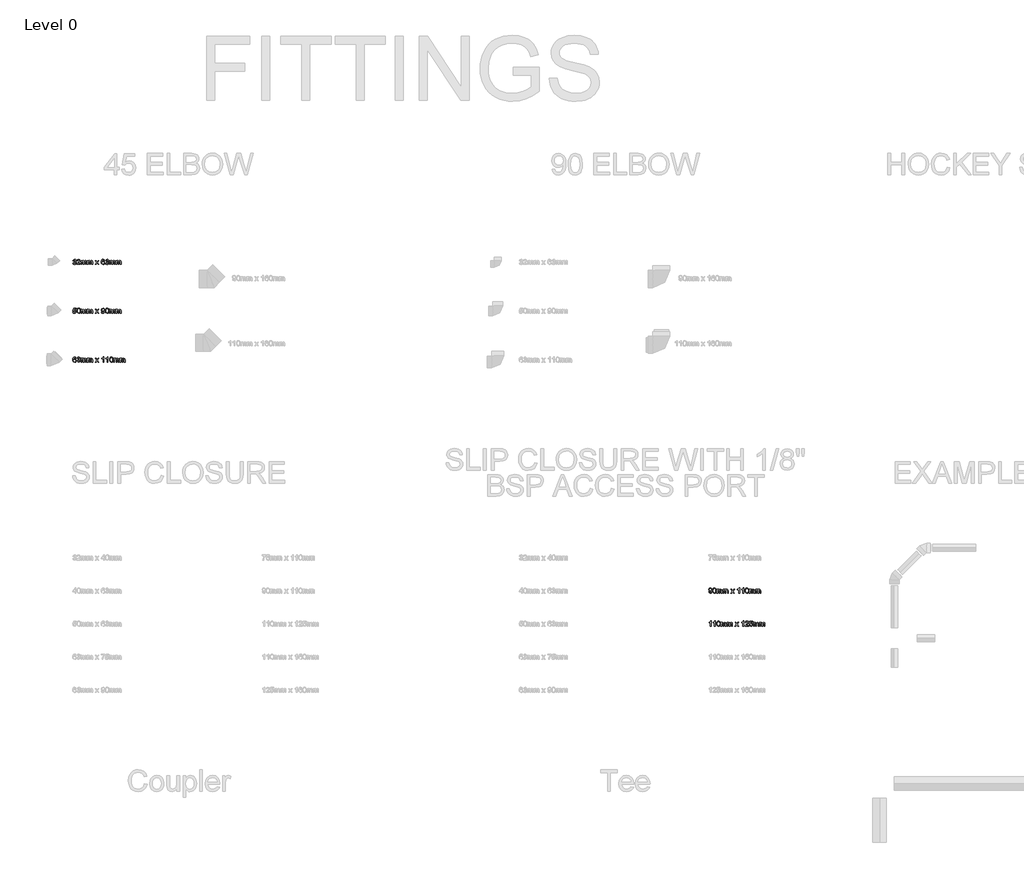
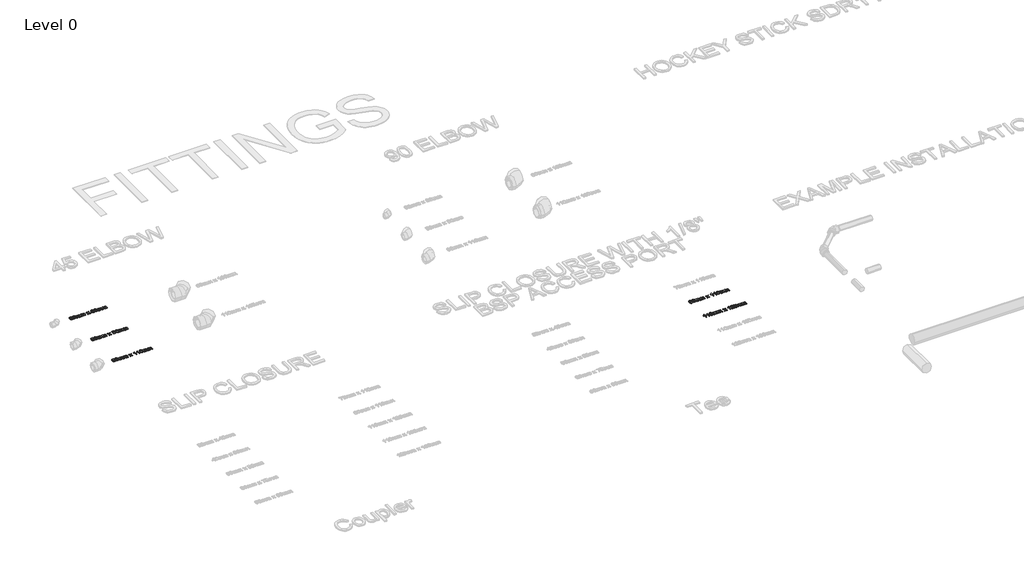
# One storey, part 15 of 21: 5 proxies.
"""IFC4 building model written with IfcOpenShell, lengths in millimetres."""

import ifcopenshell
import ifcopenshell.guid

model = None  # the IFC model being written
_history = None  # IfcOwnerHistory: only IFC2X3 demands one
_inside = {}  # id of a spatial element -> (the spatial element, [elements in it])
_under = {}  # id of a project, library or spatial element -> (it, [spatial elements below it])
_declared = {}  # id of a project -> (the project, [libraries it declares])
_typed = {}  # id of a type object -> (the type object, [elements of that type])
_made_of = {}  # id of a material, layer set ... -> (it, [elements and type objects made of it])


def new_model(schema):
    """Start an empty IFC model of exactly this schema.

    Asked for "IFC4X3", IfcOpenShell would pick the latest addendum, in which some entities
    have other attributes; the version numbers below select the first issue.
    IFC2X3 requires an IfcOwnerHistory on every rooted entity: one is made here for all.
    """
    global model, _history
    if schema == "IFC4X3":
        model = ifcopenshell.file(schema_version=(4, 3, 0, 0))
    else:
        model = ifcopenshell.file(schema=schema)
    _inside.clear()
    _under.clear()
    _declared.clear()
    _typed.clear()
    _made_of.clear()
    _history = None
    if model.schema == "IFC2X3":
        org = make("IfcOrganization", Name="unknown")
        user = make(
            "IfcPersonAndOrganization",
            ThePerson=make("IfcPerson", FamilyName="unknown"),
            TheOrganization=org,
        )
        app = make(
            "IfcApplication",
            ApplicationDeveloper=org,
            Version="unknown",
            ApplicationFullName="unknown",
            ApplicationIdentifier="unknown",
        )
        _history = make(
            "IfcOwnerHistory",
            OwningUser=user,
            OwningApplication=app,
            ChangeAction="ADDED",
            CreationDate=0,
        )
    return model


def make(cls, **values):
    """One entity of the class cls with the attributes given. An attribute that is None is left unset."""
    return model.create_entity(
        cls, **{name: value for name, value in values.items() if value is not None}
    )


def rooted(cls, **values):
    """An entity with a GlobalId (a new one), such as an element, a storey or a relation."""
    return make(cls, GlobalId=ifcopenshell.guid.new(), OwnerHistory=_history, **values)


def si_unit(unit_type, name, prefix=None):
    """IfcSIUnit, for example si_unit("LENGTHUNIT", "METRE", prefix="MILLI")."""
    return make("IfcSIUnit", UnitType=unit_type, Prefix=prefix, Name=name)


def assignment(units):
    """IfcUnitAssignment: the units of a project."""
    return None if units is None else make("IfcUnitAssignment", Units=units)


def point(xyz):
    """IfcCartesianPoint."""
    return None if xyz is None else make("IfcCartesianPoint", Coordinates=xyz)


def direction(xyz):
    """IfcDirection."""
    return None if xyz is None else make("IfcDirection", DirectionRatios=xyz)


def frame(location, z_axis=None, x_axis=None):
    """IfcAxis2Placement3D, a coordinate frame: its origin and axes. An axis left out is left unset."""
    return make(
        "IfcAxis2Placement3D",
        Location=point(location),
        Axis=direction(z_axis),
        RefDirection=direction(x_axis),
    )


def origin():
    """The frame at (0, 0, 0) with its axes left unset."""
    return frame((0.0, 0.0, 0.0))


def origin_with_axes():
    """The frame at (0, 0, 0) with the z axis (0, 0, 1) and the x axis (1, 0, 0) written out."""
    return frame((0.0, 0.0, 0.0), z_axis=(0.0, 0.0, 1.0), x_axis=(1.0, 0.0, 0.0))


def place(relative_to, where):
    """IfcLocalPlacement: puts the frame where relative to a parent placement (None: the world)."""
    return make(
        "IfcLocalPlacement", PlacementRelTo=relative_to, RelativePlacement=where
    )


def context(
    kind, dimensions, precision=None, world=None, true_north=None, identifier=None
):
    """IfcGeometricRepresentationContext, for example the 3D "Model" context."""
    return make(
        "IfcGeometricRepresentationContext",
        ContextIdentifier=identifier,
        ContextType=kind,
        CoordinateSpaceDimension=dimensions,
        Precision=precision,
        WorldCoordinateSystem=world,
        TrueNorth=true_north,
    )


def project(units=None, contexts=None):
    """IfcProject with its units and contexts."""
    return rooted(
        "IfcProject",
        Name="project",
        RepresentationContexts=contexts,
        UnitsInContext=assignment(units),
    )


def spatial(cls, under=None, at=None, **own):
    """A site, building, storey or space (cls), placed at a placement, below another one or the project."""
    s = rooted(cls, ObjectPlacement=at, **own)
    if under is not None:
        _under.setdefault(under.id(), (under, []))[1].append(s)
    return s


def polyline(points):
    """IfcPolyline through the points."""
    return make("IfcPolyline", Points=[point(p) for p in points])


def outline(outer, holes=None, kind="AREA"):
    """IfcArbitraryClosedProfileDef: a profile drawn as a closed curve; with holes, ...WithVoids."""
    if holes is None:
        return make("IfcArbitraryClosedProfileDef", ProfileType=kind, OuterCurve=outer)
    return make(
        "IfcArbitraryProfileDefWithVoids",
        ProfileType=kind,
        OuterCurve=outer,
        InnerCurves=holes,
    )


def extrude(swept, where, along, depth):
    """IfcExtrudedAreaSolid: the profile swept, set in the frame where, extruded along a direction by depth."""
    return make(
        "IfcExtrudedAreaSolid",
        SweptArea=swept,
        Position=where,
        ExtrudedDirection=direction(along),
        Depth=depth,
    )


def shape(context_of_items, identifier, shape_type, items):
    """IfcShapeRepresentation: the items that make up one representation, for example the "Body"."""
    return make(
        "IfcShapeRepresentation",
        ContextOfItems=context_of_items,
        RepresentationIdentifier=identifier,
        RepresentationType=shape_type,
        Items=items,
    )


def made_of(thing, what):
    """Note that an element or type object is made of a material, layer set ...; save() writes the relation."""
    if what is not None:
        _made_of.setdefault(what.id(), (what, []))[1].append(thing)
    return thing


def element(
    cls,
    number,
    at=None,
    inside=None,
    cuts=None,
    type_object=None,
    material=None,
    context=None,
    identifier="Body",
    shape_type=None,
    held_by="IfcProductDefinitionShape",
    body=None,
    shapes=None,
    **own,
):
    """One element of the class cls, such as IfcWall. Its Tag is "e" and its number.

    at: its placement. inside: the storey or other place that contains it. cuts: it is an
    opening in that element (IfcRelVoidsElement). A single representation is given by context,
    identifier, shape_type and body (its items); several are given by shapes. held_by: the class
    of the entity that holds the representations. save() writes the other relations.
    """
    e = rooted(cls, Tag="e%d" % number, ObjectPlacement=at, **own)
    if body is not None:
        shapes = [shape(context, identifier, shape_type, body)]
    if shapes is not None:
        e.Representation = make(held_by, Representations=shapes)
    if inside is not None:
        _inside.setdefault(inside.id(), (inside, []))[1].append(e)
    if cuts is not None:
        rooted(
            "IfcRelVoidsElement", RelatingBuildingElement=cuts, RelatedOpeningElement=e
        )
    if type_object is not None:
        _typed.setdefault(type_object.id(), (type_object, []))[1].append(e)
    return made_of(e, material)


def aggregate(whole, parts):
    """IfcRelAggregates: a whole, such as a stair, and the parts it consists of."""
    return rooted("IfcRelAggregates", RelatingObject=whole, RelatedObjects=parts)


def save(model, path):
    """Write the relations noted so far, then the file.

    IfcRelAggregates (storeys below a building ...), IfcRelContainedInSpatialStructure (elements
    in a storey), IfcRelDefinesByType, IfcRelAssociatesMaterial and IfcRelDeclares: one each for
    every whole, place, type object, material and project.
    """
    for whole, parts in _under.values():
        aggregate(whole, parts)
    for where, things in _inside.values():
        rooted(
            "IfcRelContainedInSpatialStructure",
            RelatedElements=things,
            RelatingStructure=where,
        )
    for kind, things in _typed.values():
        rooted("IfcRelDefinesByType", RelatedObjects=things, RelatingType=kind)
    for what, things in _made_of.values():
        rooted("IfcRelAssociatesMaterial", RelatedObjects=things, RelatingMaterial=what)
    for by, libraries in _declared.values():
        rooted("IfcRelDeclares", RelatingContext=by, RelatedDefinitions=libraries)
    model.write(path)


model = new_model("IFC4")

# Units and contexts
model_context = context("Model", 3, world=origin())
ifc_project = project(units=[si_unit("LENGTHUNIT", "METRE", prefix="MILLI")], contexts=[model_context])

# Site, building, storey
site = spatial("IfcSite", under=ifc_project)
building = spatial("IfcBuilding", under=site)
storey = spatial("IfcBuildingStorey", under=building, Name="Level 0", Elevation=0.0)

# Proxies
placement = place(None, origin())
element("IfcBuildingElementProxy", 1, Name="50mm", ObjectType="50mm", at=placement, inside=storey, context=model_context, shape_type="SweptSolid", body=[
    extrude(outline(polyline([(-7438.2285688, -2383.2605095), (-7431.9500494, -2382.4756946), (-7428.4858273, -2389.0853078), (-7422.0049728, -2391.1086588), (-7414.3775528, -2388.3250183), (-7411.5448614, -2381.4333623), (-7414.3530273, -2374.9402451), (-7421.4899381, -2372.3712025), (-7425.8922593, -2373.0579155), (-7425.1932835, -2366.7793962), (-7417.0630914, -2365.0503508), (-7413.8993062, -2359.5075954), (-7416.1924373, -2354.5963707), (-7422.1030747, -2352.6527275), (-7428.0872885, -2354.6147648), (-7431.1652345, -2360.5008768), (-7437.4437539, -2359.7160618), (-7432.3056687, -2349.8690871), (-7422.3238039, -2346.3742082), (-7414.7515662, -2348.0971222), (-7409.4540654, -2352.8060117), (-7407.6207868, -2359.1397134), (-7409.3620949, -2364.9277234), (-7414.5124429, -2369.08479), (-7407.6698378, -2373.3767466), (-7405.2663421, -2381.5437269), (-7410.0733335, -2392.7763905), (-7422.225702, -2397.3871782), (-7433.2376364, -2393.4508408), (-7438.2285688, -2383.2605095)])), origin_with_axes(), (0.0, 0.0, 1.0), 5.0),
    extrude(outline(polyline([(-7367.5952258, -2390.3238438), (-7367.5952258, -2396.6023632), (-7400.5574525, -2396.6023632), (-7399.8830022, -2392.2736184), (-7396.0692922, -2385.6088229), (-7388.2088802, -2378.3308908), (-7377.3686241, -2367.8707794), (-7374.6585601, -2360.7583942), (-7377.2153399, -2355.0010409), (-7383.8923981, -2352.6527275), (-7390.8514992, -2354.9458586), (-7393.4941182, -2361.2856917), (-7399.7726376, -2360.5008768), (-7394.9595148, -2349.9917144), (-7383.7575081, -2346.3742082), (-7372.5187131, -2350.3963846), (-7368.3800407, -2360.3782494), (-7369.4959494, -2366.3318064), (-7373.2054262, -2372.4876984), (-7382.200141, -2381.0900058), (-7389.4228908, -2387.1294019), (-7392.2555822, -2390.3238438), (-7367.5952258, -2390.3238438)])), origin_with_axes(), (0.0, 0.0, 1.0), 5.0),
    extrude(outline(polyline([(-7359.7470765, -2396.6023632), (-7359.7470765, -2359.7160618), (-7353.4685571, -2359.7160618), (-7353.4685571, -2365.7861148), (-7349.1520751, -2360.8135765), (-7343.0084457, -2358.9312469), (-7336.7176636, -2360.8503647), (-7333.2595729, -2366.2275732), (-7328.360611, -2360.7553285), (-7322.1740621, -2358.9312469), (-7313.9641622, -2361.9662734), (-7311.0885513, -2371.3166074), (-7311.0885513, -2396.6023632), (-7317.3670707, -2396.6023632), (-7317.3670707, -2374.0144087), (-7317.9495505, -2368.7720903), (-7320.0587406, -2366.190785), (-7323.6455901, -2365.2097663), (-7329.8198762, -2367.7236266), (-7332.2785542, -2375.7802423), (-7332.2785542, -2396.6023632), (-7338.5570736, -2396.6023632), (-7338.5570736, -2373.3154329), (-7340.0102075, -2367.2331173), (-7344.7742793, -2365.2097663), (-7349.4218552, -2366.558667), (-7352.512064, -2370.507267), (-7353.4685571, -2377.999797), (-7353.4685571, -2396.6023632), (-7359.7470765, -2396.6023632)])), origin_with_axes(), (0.0, 0.0, 1.0), 5.0),
    extrude(outline(polyline([(-7301.6707722, -2396.6023632), (-7301.6707722, -2359.7160618), (-7295.3922528, -2359.7160618), (-7295.3922528, -2365.7861148), (-7291.0757708, -2360.8135765), (-7284.9321414, -2358.9312469), (-7278.6413593, -2360.8503647), (-7275.1832686, -2366.2275732), (-7270.2843067, -2360.7553285), (-7264.0977578, -2358.9312469), (-7255.8878579, -2361.9662734), (-7253.012247, -2371.3166074), (-7253.012247, -2396.6023632), (-7259.2907664, -2396.6023632), (-7259.2907664, -2374.0144087), (-7259.8732462, -2368.7720903), (-7261.9824363, -2366.190785), (-7265.5692858, -2365.2097663), (-7271.7435719, -2367.7236266), (-7274.2022499, -2375.7802423), (-7274.2022499, -2396.6023632), (-7280.4807693, -2396.6023632), (-7280.4807693, -2373.3154329), (-7281.9339032, -2367.2331173), (-7286.697975, -2365.2097663), (-7291.3455509, -2366.558667), (-7294.4357597, -2370.507267), (-7295.3922528, -2377.999797), (-7295.3922528, -2396.6023632), (-7301.6707722, -2396.6023632)])), origin_with_axes(), (0.0, 0.0, 1.0), 5.0),
    extrude(outline(polyline([(-7227.8981695, -2396.6023632), (-7214.4827394, -2378.0611107), (-7227.1133545, -2359.7160618), (-7219.5595109, -2359.7160618), (-7213.4649325, -2368.5452297), (-7210.6199784, -2372.714559), (-7208.155169, -2369.3055192), (-7201.2144621, -2359.7160618), (-7193.6606184, -2359.7160618), (-7206.9288957, -2378.0611107), (-7194.1511278, -2396.6023632), (-7201.7049714, -2396.6023632), (-7209.3937051, -2385.4555388), (-7210.8039194, -2383.4199251), (-7220.3443258, -2396.6023632), (-7227.8981695, -2396.6023632)])), origin_with_axes(), (0.0, 0.0, 1.0), 5.0),
    extrude(outline(polyline([(-7138.4292682, -2359.7160618), (-7144.7077876, -2360.5008768), (-7147.0867578, -2355.2646897), (-7153.37754, -2352.6527275), (-7159.0429227, -2354.1733065), (-7163.3287479, -2359.8816087), (-7165.1129756, -2371.0713528), (-7159.5763516, -2366.0620263), (-7152.7153524, -2364.4249514), (-7142.0467745, -2368.900849), (-7137.6444533, -2380.4646064), (-7139.7168552, -2389.1282274), (-7145.4190261, -2395.2595939), (-7153.6473201, -2397.3871782), (-7166.4434822, -2391.7463209), (-7170.1544918, -2384.2783164), (-7171.391495, -2373.1560174), (-7170.0180689, -2360.6510953), (-7165.8977905, -2352.1009045), (-7160.2722617, -2347.8058823), (-7152.9851325, -2346.3742082), (-7143.0645814, -2349.918138), (-7138.4292682, -2359.7160618)]), holes=[polyline([(-7165.1129756, -2380.3665045), (-7163.6598417, -2385.8050267), (-7159.7970808, -2389.7536268), (-7154.1378294, -2391.1086588), (-7146.73727, -2388.3004929), (-7143.9229727, -2380.6730728), (-7146.7004818, -2373.3706152), (-7154.3953468, -2370.7034708), (-7161.99211, -2373.3706152), (-7165.1129756, -2380.3665045)])]), origin_with_axes(), (0.0, 0.0, 1.0), 5.0),
    extrude(outline(polyline([(-7132.1507488, -2383.2605095), (-7125.8722295, -2382.4756946), (-7122.4080073, -2389.0853078), (-7115.9271529, -2391.1086588), (-7108.2997328, -2388.3250183), (-7105.4670415, -2381.4333623), (-7108.2752074, -2374.9402451), (-7115.4121181, -2372.3712025), (-7119.8144393, -2373.0579155), (-7119.1154635, -2366.7793962), (-7110.9852714, -2365.0503508), (-7107.8214862, -2359.5075954), (-7110.1146173, -2354.5963707), (-7116.0252547, -2352.6527275), (-7122.0094685, -2354.6147648), (-7125.0874145, -2360.5008768), (-7131.3659339, -2359.7160618), (-7126.2278487, -2349.8690871), (-7116.2459839, -2346.3742082), (-7108.6737462, -2348.0971222), (-7103.3762455, -2352.8060117), (-7101.5429668, -2359.1397134), (-7103.284275, -2364.9277234), (-7108.4346229, -2369.08479), (-7101.5920178, -2373.3767466), (-7099.1885221, -2381.5437269), (-7103.9955135, -2392.7763905), (-7116.1478821, -2397.3871782), (-7127.1598164, -2393.4508408), (-7132.1507488, -2383.2605095)])), origin_with_axes(), (0.0, 0.0, 1.0), 5.0),
    extrude(outline(polyline([(-7092.1251878, -2396.6023632), (-7092.1251878, -2359.7160618), (-7085.8466684, -2359.7160618), (-7085.8466684, -2365.7861148), (-7081.5301863, -2360.8135765), (-7075.386557, -2358.9312469), (-7069.0957749, -2360.8503647), (-7065.6376841, -2366.2275732), (-7060.7387222, -2360.7553285), (-7054.5521733, -2358.9312469), (-7046.3422735, -2361.9662734), (-7043.4666625, -2371.3166074), (-7043.4666625, -2396.6023632), (-7049.7451819, -2396.6023632), (-7049.7451819, -2374.0144087), (-7050.3276618, -2368.7720903), (-7052.4368519, -2366.190785), (-7056.0237013, -2365.2097663), (-7062.1979875, -2367.7236266), (-7064.6566655, -2375.7802423), (-7064.6566655, -2396.6023632), (-7070.9351848, -2396.6023632), (-7070.9351848, -2373.3154329), (-7072.3883187, -2367.2331173), (-7077.1523906, -2365.2097663), (-7081.7999664, -2366.558667), (-7084.8901752, -2370.507267), (-7085.8466684, -2377.999797), (-7085.8466684, -2396.6023632), (-7092.1251878, -2396.6023632)])), origin_with_axes(), (0.0, 0.0, 1.0), 5.0),
    extrude(outline(polyline([(-7034.0488835, -2396.6023632), (-7034.0488835, -2359.7160618), (-7027.7703641, -2359.7160618), (-7027.7703641, -2365.7861148), (-7023.453882, -2360.8135765), (-7017.3102527, -2358.9312469), (-7011.0194706, -2360.8503647), (-7007.5613798, -2366.2275732), (-7002.6624179, -2360.7553285), (-6996.475869, -2358.9312469), (-6988.2659692, -2361.9662734), (-6985.3903582, -2371.3166074), (-6985.3903582, -2396.6023632), (-6991.6688776, -2396.6023632), (-6991.6688776, -2374.0144087), (-6992.2513574, -2368.7720903), (-6994.3605476, -2366.190785), (-6997.947397, -2365.2097663), (-7004.1216832, -2367.7236266), (-7006.5803612, -2375.7802423), (-7006.5803612, -2396.6023632), (-7012.8588805, -2396.6023632), (-7012.8588805, -2373.3154329), (-7014.3120144, -2367.2331173), (-7019.0760863, -2365.2097663), (-7023.7236621, -2366.558667), (-7026.8138709, -2370.507267), (-7027.7703641, -2377.999797), (-7027.7703641, -2396.6023632), (-7034.0488835, -2396.6023632)])), origin_with_axes(), (0.0, 0.0, 1.0), 5.0),
])
element("IfcBuildingElementProxy", 2, Name="50mm", ObjectType="50mm", at=placement, inside=storey, context=model_context, shape_type="SweptSolid", body=[
    extrude(outline(polyline([(-7438.2285688, -2843.2605095), (-7431.9500494, -2842.4756946), (-7428.7862643, -2848.9442864), (-7422.225702, -2851.1086588), (-7414.3530273, -2848.0981578), (-7411.5448614, -2840.1089871), (-7414.1752177, -2832.6532453), (-7422.1276002, -2829.9186558), (-7427.6396987, -2831.0100391), (-7431.1652345, -2833.8427305), (-7437.4437539, -2833.0579155), (-7431.9500494, -2807.1590231), (-7407.6207868, -2807.1590231), (-7407.6207868, -2813.4375425), (-7426.8732779, -2813.4375425), (-7429.5588165, -2827.2699055), (-7420.3740293, -2823.6401365), (-7409.6380064, -2828.1405595), (-7405.2663421, -2839.7165797), (-7409.2026794, -2851.3661762), (-7414.8557994, -2855.8819277), (-7422.2502275, -2857.3871782), (-7433.3296069, -2853.5182858), (-7438.2285688, -2843.2605095)])), origin_with_axes(), (0.0, 0.0, 1.0), 5.0),
    extrude(outline(polyline([(-7399.7726376, -2831.8929559), (-7397.9270963, -2817.4413248), (-7392.4456545, -2809.1087977), (-7383.2915242, -2806.3742082), (-7375.9584098, -2807.9928889), (-7370.893901, -2812.6588589), (-7367.950845, -2820.0900752), (-7366.8104108, -2831.8929559), (-7368.6375581, -2846.2832733), (-7374.1006057, -2854.6341946), (-7383.2915242, -2857.3871782), (-7394.7694425, -2852.6047122), (-7398.5218388, -2844.1097038), (-7399.7726376, -2831.8929559)]), holes=[polyline([(-7393.4941182, -2831.8806932), (-7390.5510623, -2847.4727584), (-7383.2915242, -2851.1086588), (-7376.0319862, -2847.4604957), (-7373.0889302, -2831.8806932), (-7375.9338843, -2816.4664376), (-7383.3651006, -2812.6527275), (-7390.4529604, -2816.0127164), (-7393.4941182, -2831.8806932)])]), origin_with_axes(), (0.0, 0.0, 1.0), 5.0),
    extrude(outline(polyline([(-7359.7470765, -2856.6023632), (-7359.7470765, -2819.7160618), (-7353.4685571, -2819.7160618), (-7353.4685571, -2825.7861148), (-7349.1520751, -2820.8135765), (-7343.0084457, -2818.9312469), (-7336.7176636, -2820.8503647), (-7333.2595729, -2826.2275732), (-7328.360611, -2820.7553285), (-7322.1740621, -2818.9312469), (-7313.9641622, -2821.9662734), (-7311.0885513, -2831.3166074), (-7311.0885513, -2856.6023632), (-7317.3670707, -2856.6023632), (-7317.3670707, -2834.0144087), (-7317.9495505, -2828.7720903), (-7320.0587406, -2826.190785), (-7323.6455901, -2825.2097663), (-7329.8198762, -2827.7236266), (-7332.2785542, -2835.7802423), (-7332.2785542, -2856.6023632), (-7338.5570736, -2856.6023632), (-7338.5570736, -2833.3154329), (-7340.0102075, -2827.2331173), (-7344.7742793, -2825.2097663), (-7349.4218552, -2826.558667), (-7352.512064, -2830.507267), (-7353.4685571, -2837.999797), (-7353.4685571, -2856.6023632), (-7359.7470765, -2856.6023632)])), origin_with_axes(), (0.0, 0.0, 1.0), 5.0),
    extrude(outline(polyline([(-7301.6707722, -2856.6023632), (-7301.6707722, -2819.7160618), (-7295.3922528, -2819.7160618), (-7295.3922528, -2825.7861148), (-7291.0757708, -2820.8135765), (-7284.9321414, -2818.9312469), (-7278.6413593, -2820.8503647), (-7275.1832686, -2826.2275732), (-7270.2843067, -2820.7553285), (-7264.0977578, -2818.9312469), (-7255.8878579, -2821.9662734), (-7253.012247, -2831.3166074), (-7253.012247, -2856.6023632), (-7259.2907664, -2856.6023632), (-7259.2907664, -2834.0144087), (-7259.8732462, -2828.7720903), (-7261.9824363, -2826.190785), (-7265.5692858, -2825.2097663), (-7271.7435719, -2827.7236266), (-7274.2022499, -2835.7802423), (-7274.2022499, -2856.6023632), (-7280.4807693, -2856.6023632), (-7280.4807693, -2833.3154329), (-7281.9339032, -2827.2331173), (-7286.697975, -2825.2097663), (-7291.3455509, -2826.558667), (-7294.4357597, -2830.507267), (-7295.3922528, -2837.999797), (-7295.3922528, -2856.6023632), (-7301.6707722, -2856.6023632)])), origin_with_axes(), (0.0, 0.0, 1.0), 5.0),
    extrude(outline(polyline([(-7227.8981695, -2856.6023632), (-7214.4827394, -2838.0611107), (-7227.1133545, -2819.7160618), (-7219.5595109, -2819.7160618), (-7213.4649325, -2828.5452297), (-7210.6199784, -2832.714559), (-7208.155169, -2829.3055192), (-7201.2144621, -2819.7160618), (-7193.6606184, -2819.7160618), (-7206.9288957, -2838.0611107), (-7194.1511278, -2856.6023632), (-7201.7049714, -2856.6023632), (-7209.3937051, -2845.4555388), (-7210.8039194, -2843.4199251), (-7220.3443258, -2856.6023632), (-7227.8981695, -2856.6023632)])), origin_with_axes(), (0.0, 0.0, 1.0), 5.0),
    extrude(outline(polyline([(-7169.8218652, -2844.0453245), (-7163.5433458, -2843.2605095), (-7160.7229171, -2849.2508547), (-7155.3763655, -2851.1086588), (-7150.2934626, -2849.9130423), (-7146.8476346, -2846.7186003), (-7144.7936267, -2841.261684), (-7143.8861845, -2833.9776205), (-7148.9445619, -2837.5092877), (-7155.8300866, -2839.3364349), (-7166.3208548, -2834.8728), (-7170.6066801, -2823.1128389), (-7166.1123884, -2810.9727331), (-7154.8490679, -2806.3742082), (-7145.9034041, -2808.9984331), (-7139.747512, -2816.4787003), (-7137.6444533, -2830.5317925), (-7139.7413807, -2845.7805012), (-7145.9769805, -2854.4195967), (-7155.6706711, -2857.3871782), (-7165.3214421, -2853.8861678), (-7169.8218652, -2844.0453245)]), holes=[polyline([(-7143.9229727, -2822.9656861), (-7146.6330367, -2815.436368), (-7153.8312611, -2812.6527275), (-7161.3851047, -2815.6509658), (-7164.3281607, -2823.4194073), (-7161.5445203, -2830.3785083), (-7154.0029394, -2833.0579155), (-7146.7617954, -2830.3785083), (-7143.9229727, -2822.9656861)])]), origin_with_axes(), (0.0, 0.0, 1.0), 5.0),
    extrude(outline(polyline([(-7132.1507488, -2831.8929559), (-7130.3052075, -2817.4413248), (-7124.8237658, -2809.1087977), (-7115.6696355, -2806.3742082), (-7108.336521, -2807.9928889), (-7103.2720122, -2812.6588589), (-7100.3289563, -2820.0900752), (-7099.1885221, -2831.8929559), (-7101.0156693, -2846.2832733), (-7106.4787169, -2854.6341946), (-7115.6696355, -2857.3871782), (-7127.1475537, -2852.6047122), (-7130.8999501, -2844.1097038), (-7132.1507488, -2831.8929559)]), holes=[polyline([(-7125.8722295, -2831.8806932), (-7122.9291735, -2847.4727584), (-7115.6696355, -2851.1086588), (-7108.4100974, -2847.4604957), (-7105.4670415, -2831.8806932), (-7108.3119956, -2816.4664376), (-7115.7432119, -2812.6527275), (-7122.8310716, -2816.0127164), (-7125.8722295, -2831.8806932)])]), origin_with_axes(), (0.0, 0.0, 1.0), 5.0),
    extrude(outline(polyline([(-7092.1251878, -2856.6023632), (-7092.1251878, -2819.7160618), (-7085.8466684, -2819.7160618), (-7085.8466684, -2825.7861148), (-7081.5301863, -2820.8135765), (-7075.386557, -2818.9312469), (-7069.0957749, -2820.8503647), (-7065.6376841, -2826.2275732), (-7060.7387222, -2820.7553285), (-7054.5521733, -2818.9312469), (-7046.3422735, -2821.9662734), (-7043.4666625, -2831.3166074), (-7043.4666625, -2856.6023632), (-7049.7451819, -2856.6023632), (-7049.7451819, -2834.0144087), (-7050.3276618, -2828.7720903), (-7052.4368519, -2826.190785), (-7056.0237013, -2825.2097663), (-7062.1979875, -2827.7236266), (-7064.6566655, -2835.7802423), (-7064.6566655, -2856.6023632), (-7070.9351848, -2856.6023632), (-7070.9351848, -2833.3154329), (-7072.3883187, -2827.2331173), (-7077.1523906, -2825.2097663), (-7081.7999664, -2826.558667), (-7084.8901752, -2830.507267), (-7085.8466684, -2837.999797), (-7085.8466684, -2856.6023632), (-7092.1251878, -2856.6023632)])), origin_with_axes(), (0.0, 0.0, 1.0), 5.0),
    extrude(outline(polyline([(-7034.0488835, -2856.6023632), (-7034.0488835, -2819.7160618), (-7027.7703641, -2819.7160618), (-7027.7703641, -2825.7861148), (-7023.453882, -2820.8135765), (-7017.3102527, -2818.9312469), (-7011.0194706, -2820.8503647), (-7007.5613798, -2826.2275732), (-7002.6624179, -2820.7553285), (-6996.475869, -2818.9312469), (-6988.2659692, -2821.9662734), (-6985.3903582, -2831.3166074), (-6985.3903582, -2856.6023632), (-6991.6688776, -2856.6023632), (-6991.6688776, -2834.0144087), (-6992.2513574, -2828.7720903), (-6994.3605476, -2826.190785), (-6997.947397, -2825.2097663), (-7004.1216832, -2827.7236266), (-7006.5803612, -2835.7802423), (-7006.5803612, -2856.6023632), (-7012.8588805, -2856.6023632), (-7012.8588805, -2833.3154329), (-7014.3120144, -2827.2331173), (-7019.0760863, -2825.2097663), (-7023.7236621, -2826.558667), (-7026.8138709, -2830.507267), (-7027.7703641, -2837.999797), (-7027.7703641, -2856.6023632), (-7034.0488835, -2856.6023632)])), origin_with_axes(), (0.0, 0.0, 1.0), 5.0),
])
element("IfcBuildingElementProxy", 3, Name="50mm", ObjectType="50mm", at=placement, inside=storey, context=model_context, shape_type="SweptSolid", body=[
    extrude(outline(polyline([(-7406.051157, -3279.7160618), (-7412.3296764, -3280.5008768), (-7414.7086466, -3275.2646897), (-7420.9994287, -3272.6527275), (-7426.6648115, -3274.1733065), (-7430.9506367, -3279.8816087), (-7432.7348644, -3291.0713528), (-7427.1982403, -3286.0620263), (-7420.3372411, -3284.4249514), (-7409.6686633, -3288.900849), (-7405.2663421, -3300.4646064), (-7407.338744, -3309.1282274), (-7413.0409149, -3315.2595939), (-7421.2692089, -3317.3871782), (-7434.0653709, -3311.7463209), (-7437.7763805, -3304.2783164), (-7439.0133838, -3293.1560174), (-7437.6399576, -3280.6510953), (-7433.5196793, -3272.1009045), (-7427.8941505, -3267.8058823), (-7420.6070213, -3266.3742082), (-7410.6864701, -3269.918138), (-7406.051157, -3279.7160618)]), holes=[polyline([(-7432.7348644, -3300.3665045), (-7431.2817305, -3305.8050267), (-7427.4189695, -3309.7536268), (-7421.7597182, -3311.1086588), (-7414.3591587, -3308.3004929), (-7411.5448614, -3300.6730728), (-7414.3223705, -3293.3706152), (-7422.0172356, -3290.7034708), (-7429.6139988, -3293.3706152), (-7432.7348644, -3300.3665045)])]), origin_with_axes(), (0.0, 0.0, 1.0), 5.0),
    extrude(outline(polyline([(-7399.7726376, -3303.2605095), (-7393.4941182, -3302.4756946), (-7390.0298961, -3309.0853078), (-7383.5490416, -3311.1086588), (-7375.9216216, -3308.3250183), (-7373.0889302, -3301.4333623), (-7375.8970961, -3294.9402451), (-7383.0340068, -3292.3712025), (-7387.436328, -3293.0579155), (-7386.7373522, -3286.7793962), (-7378.6071601, -3285.0503508), (-7375.443375, -3279.5075954), (-7377.7365061, -3274.5963707), (-7383.6471435, -3272.6527275), (-7389.6313573, -3274.6147648), (-7392.7093033, -3280.5008768), (-7398.9878227, -3279.7160618), (-7393.8497375, -3269.8690871), (-7383.8678727, -3266.3742082), (-7376.2956349, -3268.0971222), (-7370.9981342, -3272.8060117), (-7369.1648556, -3279.1397134), (-7370.9061637, -3284.9277234), (-7376.0565116, -3289.08479), (-7369.2139065, -3293.3767466), (-7366.8104108, -3301.5437269), (-7371.6174022, -3312.7763905), (-7383.7697708, -3317.3871782), (-7394.7817052, -3313.4508408), (-7399.7726376, -3303.2605095)])), origin_with_axes(), (0.0, 0.0, 1.0), 5.0),
    extrude(outline(polyline([(-7359.7470765, -3316.6023632), (-7359.7470765, -3279.7160618), (-7353.4685571, -3279.7160618), (-7353.4685571, -3285.7861148), (-7349.1520751, -3280.8135765), (-7343.0084457, -3278.9312469), (-7336.7176636, -3280.8503647), (-7333.2595729, -3286.2275732), (-7328.360611, -3280.7553285), (-7322.1740621, -3278.9312469), (-7313.9641622, -3281.9662734), (-7311.0885513, -3291.3166074), (-7311.0885513, -3316.6023632), (-7317.3670707, -3316.6023632), (-7317.3670707, -3294.0144087), (-7317.9495505, -3288.7720903), (-7320.0587406, -3286.190785), (-7323.6455901, -3285.2097663), (-7329.8198762, -3287.7236266), (-7332.2785542, -3295.7802423), (-7332.2785542, -3316.6023632), (-7338.5570736, -3316.6023632), (-7338.5570736, -3293.3154329), (-7340.0102075, -3287.2331173), (-7344.7742793, -3285.2097663), (-7349.4218552, -3286.558667), (-7352.512064, -3290.507267), (-7353.4685571, -3297.999797), (-7353.4685571, -3316.6023632), (-7359.7470765, -3316.6023632)])), origin_with_axes(), (0.0, 0.0, 1.0), 5.0),
    extrude(outline(polyline([(-7301.6707722, -3316.6023632), (-7301.6707722, -3279.7160618), (-7295.3922528, -3279.7160618), (-7295.3922528, -3285.7861148), (-7291.0757708, -3280.8135765), (-7284.9321414, -3278.9312469), (-7278.6413593, -3280.8503647), (-7275.1832686, -3286.2275732), (-7270.2843067, -3280.7553285), (-7264.0977578, -3278.9312469), (-7255.8878579, -3281.9662734), (-7253.012247, -3291.3166074), (-7253.012247, -3316.6023632), (-7259.2907664, -3316.6023632), (-7259.2907664, -3294.0144087), (-7259.8732462, -3288.7720903), (-7261.9824363, -3286.190785), (-7265.5692858, -3285.2097663), (-7271.7435719, -3287.7236266), (-7274.2022499, -3295.7802423), (-7274.2022499, -3316.6023632), (-7280.4807693, -3316.6023632), (-7280.4807693, -3293.3154329), (-7281.9339032, -3287.2331173), (-7286.697975, -3285.2097663), (-7291.3455509, -3286.558667), (-7294.4357597, -3290.507267), (-7295.3922528, -3297.999797), (-7295.3922528, -3316.6023632), (-7301.6707722, -3316.6023632)])), origin_with_axes(), (0.0, 0.0, 1.0), 5.0),
    extrude(outline(polyline([(-7227.8981695, -3316.6023632), (-7214.4827394, -3298.0611107), (-7227.1133545, -3279.7160618), (-7219.5595109, -3279.7160618), (-7213.4649325, -3288.5452297), (-7210.6199784, -3292.714559), (-7208.155169, -3289.3055192), (-7201.2144621, -3279.7160618), (-7193.6606184, -3279.7160618), (-7206.9288957, -3298.0611107), (-7194.1511278, -3316.6023632), (-7201.7049714, -3316.6023632), (-7209.3937051, -3305.4555388), (-7210.8039194, -3303.4199251), (-7220.3443258, -3316.6023632), (-7227.8981695, -3316.6023632)])), origin_with_axes(), (0.0, 0.0, 1.0), 5.0),
    extrude(outline(polyline([(-7147.0622324, -3316.6023632), (-7153.3407518, -3316.6023632), (-7153.3407518, -3277.4597189), (-7159.2881774, -3281.6964933), (-7165.8977905, -3284.8664098), (-7165.8977905, -3278.9312469), (-7156.6946093, -3273.0573977), (-7151.1089343, -3266.3742082), (-7147.0622324, -3266.3742082), (-7147.0622324, -3316.6023632)])), origin_with_axes(), (0.0, 0.0, 1.0), 5.0),
    extrude(outline(polyline([(-7108.6063012, -3316.6023632), (-7114.8848205, -3316.6023632), (-7114.8848205, -3277.4597189), (-7120.8322461, -3281.6964933), (-7127.4418593, -3284.8664098), (-7127.4418593, -3278.9312469), (-7118.2386781, -3273.0573977), (-7112.6530031, -3266.3742082), (-7108.6063012, -3266.3742082), (-7108.6063012, -3316.6023632)])), origin_with_axes(), (0.0, 0.0, 1.0), 5.0),
    extrude(outline(polyline([(-7093.6948176, -3291.8929559), (-7091.8492763, -3277.4413248), (-7086.3678345, -3269.1087977), (-7077.2137042, -3266.3742082), (-7069.8805898, -3267.9928889), (-7064.816081, -3272.6588589), (-7061.873025, -3280.0900752), (-7060.7325908, -3291.8929559), (-7062.5597381, -3306.2832733), (-7068.0227857, -3314.6341946), (-7077.2137042, -3317.3871782), (-7088.6916225, -3312.6047122), (-7092.4440188, -3304.1097038), (-7093.6948176, -3291.8929559)]), holes=[polyline([(-7087.4162982, -3291.8806932), (-7084.4732423, -3307.4727584), (-7077.2137042, -3311.1086588), (-7069.9541662, -3307.4604957), (-7067.0111102, -3291.8806932), (-7069.8560643, -3276.4664376), (-7077.2872806, -3272.6527275), (-7084.3751404, -3276.0127164), (-7087.4162982, -3291.8806932)])]), origin_with_axes(), (0.0, 0.0, 1.0), 5.0),
    extrude(outline(polyline([(-7053.6692565, -3316.6023632), (-7053.6692565, -3279.7160618), (-7047.3907372, -3279.7160618), (-7047.3907372, -3285.7861148), (-7043.0742551, -3280.8135765), (-7036.9306258, -3278.9312469), (-7030.6398436, -3280.8503647), (-7027.1817529, -3286.2275732), (-7022.282791, -3280.7553285), (-7016.0962421, -3278.9312469), (-7007.8863422, -3281.9662734), (-7005.0107313, -3291.3166074), (-7005.0107313, -3316.6023632), (-7011.2892507, -3316.6023632), (-7011.2892507, -3294.0144087), (-7011.8717305, -3288.7720903), (-7013.9809206, -3286.190785), (-7017.5677701, -3285.2097663), (-7023.7420562, -3287.7236266), (-7026.2007342, -3295.7802423), (-7026.2007342, -3316.6023632), (-7032.4792536, -3316.6023632), (-7032.4792536, -3293.3154329), (-7033.9323875, -3287.2331173), (-7038.6964593, -3285.2097663), (-7043.3440352, -3286.558667), (-7046.434244, -3290.507267), (-7047.3907372, -3297.999797), (-7047.3907372, -3316.6023632), (-7053.6692565, -3316.6023632)])), origin_with_axes(), (0.0, 0.0, 1.0), 5.0),
    extrude(outline(polyline([(-6995.5929522, -3316.6023632), (-6995.5929522, -3279.7160618), (-6989.3144329, -3279.7160618), (-6989.3144329, -3285.7861148), (-6984.9979508, -3280.8135765), (-6978.8543215, -3278.9312469), (-6972.5635393, -3280.8503647), (-6969.1054486, -3286.2275732), (-6964.2064867, -3280.7553285), (-6958.0199378, -3278.9312469), (-6949.8100379, -3281.9662734), (-6946.934427, -3291.3166074), (-6946.934427, -3316.6023632), (-6953.2129464, -3316.6023632), (-6953.2129464, -3294.0144087), (-6953.7954262, -3288.7720903), (-6955.9046163, -3286.190785), (-6959.4914658, -3285.2097663), (-6965.6657519, -3287.7236266), (-6968.1244299, -3295.7802423), (-6968.1244299, -3316.6023632), (-6974.4029493, -3316.6023632), (-6974.4029493, -3293.3154329), (-6975.8560832, -3287.2331173), (-6980.620155, -3285.2097663), (-6985.2677309, -3286.558667), (-6988.3579397, -3290.507267), (-6989.3144329, -3297.999797), (-6989.3144329, -3316.6023632), (-6995.5929522, -3316.6023632)])), origin_with_axes(), (0.0, 0.0, 1.0), 5.0),
])
element("IfcBuildingElementProxy", 4, Name="50mm", ObjectType="50mm", at=placement, inside=storey, context=model_context, shape_type="SweptSolid", body=[
    extrude(outline(polyline([(-1457.4437539, -5476.9042243), (-1451.1652345, -5476.1194094), (-1448.3448059, -5482.1097546), (-1442.9982542, -5483.9675586), (-1437.9153513, -5482.7719421), (-1434.4695233, -5479.5775002), (-1432.4155155, -5474.1205839), (-1431.5080732, -5466.8365204), (-1436.5664507, -5470.3681875), (-1443.4519754, -5472.1953348), (-1453.9427436, -5467.7316999), (-1458.2285688, -5455.9717388), (-1453.7342771, -5443.831633), (-1442.4709567, -5439.233108), (-1433.5252929, -5441.8573329), (-1427.3694008, -5449.3376001), (-1425.2663421, -5463.3906924), (-1427.3632694, -5478.6394011), (-1433.5988693, -5487.2784966), (-1443.2925598, -5490.246078), (-1452.9433308, -5486.7450677), (-1457.4437539, -5476.9042243)]), holes=[polyline([(-1431.5448614, -5455.824586), (-1434.2549255, -5448.2952678), (-1441.4531499, -5445.5116274), (-1449.0069935, -5448.5098657), (-1451.9500494, -5456.2783071), (-1449.166409, -5463.2374082), (-1441.6248281, -5465.9168154), (-1434.3836842, -5463.2374082), (-1431.5448614, -5455.824586)])]), origin_with_axes(), (0.0, 0.0, 1.0), 5.0),
    extrude(outline(polyline([(-1419.7726376, -5464.7518557), (-1417.9270963, -5450.3002247), (-1412.4456545, -5441.9676975), (-1403.2915242, -5439.233108), (-1395.9584098, -5440.8517888), (-1390.893901, -5445.5177588), (-1387.950845, -5452.9489751), (-1386.8104108, -5464.7518557), (-1388.6375581, -5479.1421731), (-1394.1006057, -5487.4930944), (-1403.2915242, -5490.246078), (-1414.7694425, -5485.4636121), (-1418.5218388, -5476.9686037), (-1419.7726376, -5464.7518557)]), holes=[polyline([(-1413.4941182, -5464.739593), (-1410.5510623, -5480.3316582), (-1403.2915242, -5483.9675586), (-1396.0319862, -5480.3193955), (-1393.0889302, -5464.739593), (-1395.9338843, -5449.3253374), (-1403.3651006, -5445.5116274), (-1410.4529604, -5448.8716163), (-1413.4941182, -5464.739593)])]), origin_with_axes(), (0.0, 0.0, 1.0), 5.0),
    extrude(outline(polyline([(-1379.7470765, -5489.4612631), (-1379.7470765, -5452.5749617), (-1373.4685571, -5452.5749617), (-1373.4685571, -5458.6450146), (-1369.1520751, -5453.6724763), (-1363.0084457, -5451.7901468), (-1356.7176636, -5453.7092645), (-1353.2595729, -5459.086473), (-1348.360611, -5453.6142283), (-1342.1740621, -5451.7901468), (-1333.9641622, -5454.8251732), (-1331.0885513, -5464.1755073), (-1331.0885513, -5489.4612631), (-1337.3670707, -5489.4612631), (-1337.3670707, -5466.8733086), (-1337.9495505, -5461.6309902), (-1340.0587406, -5459.0496848), (-1343.6455901, -5458.0686662), (-1349.8198762, -5460.5825265), (-1352.2785542, -5468.6391422), (-1352.2785542, -5489.4612631), (-1358.5570736, -5489.4612631), (-1358.5570736, -5466.1743328), (-1360.0102075, -5460.0920171), (-1364.7742793, -5458.0686662), (-1369.4218552, -5459.4175668), (-1372.512064, -5463.3661669), (-1373.4685571, -5470.8586969), (-1373.4685571, -5489.4612631), (-1379.7470765, -5489.4612631)])), origin_with_axes(), (0.0, 0.0, 1.0), 5.0),
    extrude(outline(polyline([(-1321.6707722, -5489.4612631), (-1321.6707722, -5452.5749617), (-1315.3922528, -5452.5749617), (-1315.3922528, -5458.6450146), (-1311.0757708, -5453.6724763), (-1304.9321414, -5451.7901468), (-1298.6413593, -5453.7092645), (-1295.1832686, -5459.086473), (-1290.2843067, -5453.6142283), (-1284.0977578, -5451.7901468), (-1275.8878579, -5454.8251732), (-1273.012247, -5464.1755073), (-1273.012247, -5489.4612631), (-1279.2907664, -5489.4612631), (-1279.2907664, -5466.8733086), (-1279.8732462, -5461.6309902), (-1281.9824363, -5459.0496848), (-1285.5692858, -5458.0686662), (-1291.7435719, -5460.5825265), (-1294.2022499, -5468.6391422), (-1294.2022499, -5489.4612631), (-1300.4807693, -5489.4612631), (-1300.4807693, -5466.1743328), (-1301.9339032, -5460.0920171), (-1306.697975, -5458.0686662), (-1311.3455509, -5459.4175668), (-1314.4357597, -5463.3661669), (-1315.3922528, -5470.8586969), (-1315.3922528, -5489.4612631), (-1321.6707722, -5489.4612631)])), origin_with_axes(), (0.0, 0.0, 1.0), 5.0),
    extrude(outline(polyline([(-1247.8981695, -5489.4612631), (-1234.4827394, -5470.9200105), (-1247.1133545, -5452.5749617), (-1239.5595109, -5452.5749617), (-1233.4649325, -5461.4041296), (-1230.6199784, -5465.5734589), (-1228.155169, -5462.164419), (-1221.2144621, -5452.5749617), (-1213.6606184, -5452.5749617), (-1226.9288957, -5470.9200105), (-1214.1511278, -5489.4612631), (-1221.7049714, -5489.4612631), (-1229.3937051, -5478.3144386), (-1230.8039194, -5476.2788249), (-1240.3443258, -5489.4612631), (-1247.8981695, -5489.4612631)])), origin_with_axes(), (0.0, 0.0, 1.0), 5.0),
    extrude(outline(polyline([(-1167.0622324, -5489.4612631), (-1173.3407518, -5489.4612631), (-1173.3407518, -5450.3186188), (-1179.2881774, -5454.5553931), (-1185.8977905, -5457.7253096), (-1185.8977905, -5451.7901468), (-1176.6946093, -5445.9162976), (-1171.1089343, -5439.233108), (-1167.0622324, -5439.233108), (-1167.0622324, -5489.4612631)])), origin_with_axes(), (0.0, 0.0, 1.0), 5.0),
    extrude(outline(polyline([(-1128.6063012, -5489.4612631), (-1134.8848205, -5489.4612631), (-1134.8848205, -5450.3186188), (-1140.8322461, -5454.5553931), (-1147.4418593, -5457.7253096), (-1147.4418593, -5451.7901468), (-1138.2386781, -5445.9162976), (-1132.6530031, -5439.233108), (-1128.6063012, -5439.233108), (-1128.6063012, -5489.4612631)])), origin_with_axes(), (0.0, 0.0, 1.0), 5.0),
    extrude(outline(polyline([(-1113.6948176, -5464.7518557), (-1111.8492763, -5450.3002247), (-1106.3678345, -5441.9676975), (-1097.2137042, -5439.233108), (-1089.8805898, -5440.8517888), (-1084.816081, -5445.5177588), (-1081.873025, -5452.9489751), (-1080.7325908, -5464.7518557), (-1082.5597381, -5479.1421731), (-1088.0227857, -5487.4930944), (-1097.2137042, -5490.246078), (-1108.6916225, -5485.4636121), (-1112.4440188, -5476.9686037), (-1113.6948176, -5464.7518557)]), holes=[polyline([(-1107.4162982, -5464.739593), (-1104.4732423, -5480.3316582), (-1097.2137042, -5483.9675586), (-1089.9541662, -5480.3193955), (-1087.0111102, -5464.739593), (-1089.8560643, -5449.3253374), (-1097.2872806, -5445.5116274), (-1104.3751404, -5448.8716163), (-1107.4162982, -5464.739593)])]), origin_with_axes(), (0.0, 0.0, 1.0), 5.0),
    extrude(outline(polyline([(-1073.6692565, -5489.4612631), (-1073.6692565, -5452.5749617), (-1067.3907372, -5452.5749617), (-1067.3907372, -5458.6450146), (-1063.0742551, -5453.6724763), (-1056.9306258, -5451.7901468), (-1050.6398436, -5453.7092645), (-1047.1817529, -5459.086473), (-1042.282791, -5453.6142283), (-1036.0962421, -5451.7901468), (-1027.8863422, -5454.8251732), (-1025.0107313, -5464.1755073), (-1025.0107313, -5489.4612631), (-1031.2892507, -5489.4612631), (-1031.2892507, -5466.8733086), (-1031.8717305, -5461.6309902), (-1033.9809206, -5459.0496848), (-1037.5677701, -5458.0686662), (-1043.7420562, -5460.5825265), (-1046.2007342, -5468.6391422), (-1046.2007342, -5489.4612631), (-1052.4792536, -5489.4612631), (-1052.4792536, -5466.1743328), (-1053.9323875, -5460.0920171), (-1058.6964593, -5458.0686662), (-1063.3440352, -5459.4175668), (-1066.434244, -5463.3661669), (-1067.3907372, -5470.8586969), (-1067.3907372, -5489.4612631), (-1073.6692565, -5489.4612631)])), origin_with_axes(), (0.0, 0.0, 1.0), 5.0),
    extrude(outline(polyline([(-1015.5929522, -5489.4612631), (-1015.5929522, -5452.5749617), (-1009.3144329, -5452.5749617), (-1009.3144329, -5458.6450146), (-1004.9979508, -5453.6724763), (-998.8543215, -5451.7901468), (-992.5635393, -5453.7092645), (-989.1054486, -5459.086473), (-984.2064867, -5453.6142283), (-978.0199378, -5451.7901468), (-969.8100379, -5454.8251732), (-966.934427, -5464.1755073), (-966.934427, -5489.4612631), (-973.2129464, -5489.4612631), (-973.2129464, -5466.8733086), (-973.7954262, -5461.6309902), (-975.9046163, -5459.0496848), (-979.4914658, -5458.0686662), (-985.6657519, -5460.5825265), (-988.1244299, -5468.6391422), (-988.1244299, -5489.4612631), (-994.4029493, -5489.4612631), (-994.4029493, -5466.1743328), (-995.8560832, -5460.0920171), (-1000.620155, -5458.0686662), (-1005.2677309, -5459.4175668), (-1008.3579397, -5463.3661669), (-1009.3144329, -5470.8586969), (-1009.3144329, -5489.4612631), (-1015.5929522, -5489.4612631)])), origin_with_axes(), (0.0, 0.0, 1.0), 5.0),
])
element("IfcBuildingElementProxy", 5, Name="50mm", ObjectType="50mm", at=placement, inside=storey, context=model_context, shape_type="SweptSolid", body=[
    extrude(outline(polyline([(-1434.6841211, -5800.7112631), (-1440.9626405, -5800.7112631), (-1440.9626405, -5761.5686188), (-1446.9100661, -5765.8053931), (-1453.5196793, -5768.9753096), (-1453.5196793, -5763.0401468), (-1444.316498, -5757.1662976), (-1438.7308231, -5750.483108), (-1434.6841211, -5750.483108), (-1434.6841211, -5800.7112631)])), origin_with_axes(), (0.0, 0.0, 1.0), 5.0),
    extrude(outline(polyline([(-1396.2281899, -5800.7112631), (-1402.5067093, -5800.7112631), (-1402.5067093, -5761.5686188), (-1408.4541349, -5765.8053931), (-1415.0637481, -5768.9753096), (-1415.0637481, -5763.0401468), (-1405.8605668, -5757.1662976), (-1400.2748919, -5750.483108), (-1396.2281899, -5750.483108), (-1396.2281899, -5800.7112631)])), origin_with_axes(), (0.0, 0.0, 1.0), 5.0),
    extrude(outline(polyline([(-1381.3167064, -5776.0018557), (-1379.471165, -5761.5502247), (-1373.9897233, -5753.2176975), (-1364.835593, -5750.483108), (-1357.5024786, -5752.1017888), (-1352.4379698, -5756.7677588), (-1349.4949138, -5764.1989751), (-1348.3544796, -5776.0018557), (-1350.1816268, -5790.3921731), (-1355.6446745, -5798.7430944), (-1364.835593, -5801.496078), (-1376.3135112, -5796.7136121), (-1380.0659076, -5788.2186037), (-1381.3167064, -5776.0018557)]), holes=[polyline([(-1375.038187, -5775.989593), (-1372.095131, -5791.5816582), (-1364.835593, -5795.2175586), (-1357.576055, -5791.5693955), (-1354.632999, -5775.989593), (-1357.4779531, -5760.5753374), (-1364.9091694, -5756.7616274), (-1371.9970292, -5760.1216163), (-1375.038187, -5775.989593)])]), origin_with_axes(), (0.0, 0.0, 1.0), 5.0),
    extrude(outline(polyline([(-1341.2911453, -5800.7112631), (-1341.2911453, -5763.8249617), (-1335.0126259, -5763.8249617), (-1335.0126259, -5769.8950146), (-1330.6961438, -5764.9224763), (-1324.5525145, -5763.0401468), (-1318.2617324, -5764.9592645), (-1314.8036416, -5770.336473), (-1309.9046797, -5764.8642283), (-1303.7181309, -5763.0401468), (-1295.508231, -5766.0751732), (-1292.6326201, -5775.4255073), (-1292.6326201, -5800.7112631), (-1298.9111395, -5800.7112631), (-1298.9111395, -5778.1233086), (-1299.4936193, -5772.8809902), (-1301.6028094, -5770.2996848), (-1305.1896588, -5769.3186662), (-1311.363945, -5771.8325265), (-1313.822623, -5779.8891422), (-1313.822623, -5800.7112631), (-1320.1011424, -5800.7112631), (-1320.1011424, -5777.4243328), (-1321.5542763, -5771.3420171), (-1326.3183481, -5769.3186662), (-1330.965924, -5770.6675668), (-1334.0561327, -5774.6161669), (-1335.0126259, -5782.1086969), (-1335.0126259, -5800.7112631), (-1341.2911453, -5800.7112631)])), origin_with_axes(), (0.0, 0.0, 1.0), 5.0),
    extrude(outline(polyline([(-1283.214841, -5800.7112631), (-1283.214841, -5763.8249617), (-1276.9363216, -5763.8249617), (-1276.9363216, -5769.8950146), (-1272.6198395, -5764.9224763), (-1266.4762102, -5763.0401468), (-1260.1854281, -5764.9592645), (-1256.7273373, -5770.336473), (-1251.8283754, -5764.8642283), (-1245.6418266, -5763.0401468), (-1237.4319267, -5766.0751732), (-1234.5563158, -5775.4255073), (-1234.5563158, -5800.7112631), (-1240.8348351, -5800.7112631), (-1240.8348351, -5778.1233086), (-1241.417315, -5772.8809902), (-1243.5265051, -5770.2996848), (-1247.1133545, -5769.3186662), (-1253.2876407, -5771.8325265), (-1255.7463187, -5779.8891422), (-1255.7463187, -5800.7112631), (-1262.0248381, -5800.7112631), (-1262.0248381, -5777.4243328), (-1263.477972, -5771.3420171), (-1268.2420438, -5769.3186662), (-1272.8896197, -5770.6675668), (-1275.9798284, -5774.6161669), (-1276.9363216, -5782.1086969), (-1276.9363216, -5800.7112631), (-1283.214841, -5800.7112631)])), origin_with_axes(), (0.0, 0.0, 1.0), 5.0),
    extrude(outline(polyline([(-1209.4422382, -5800.7112631), (-1196.0268081, -5782.1700105), (-1208.6574233, -5763.8249617), (-1201.1035797, -5763.8249617), (-1195.0090013, -5772.6541296), (-1192.1640472, -5776.8234589), (-1189.6992378, -5773.414419), (-1182.7585308, -5763.8249617), (-1175.2046872, -5763.8249617), (-1188.4729645, -5782.1700105), (-1175.6951965, -5800.7112631), (-1183.2490402, -5800.7112631), (-1190.9377739, -5789.5644386), (-1192.3479882, -5787.5288249), (-1201.8883946, -5800.7112631), (-1209.4422382, -5800.7112631)])), origin_with_axes(), (0.0, 0.0, 1.0), 5.0),
    extrude(outline(polyline([(-1128.6063012, -5800.7112631), (-1134.8848205, -5800.7112631), (-1134.8848205, -5761.5686188), (-1140.8322461, -5765.8053931), (-1147.4418593, -5768.9753096), (-1147.4418593, -5763.0401468), (-1138.2386781, -5757.1662976), (-1132.6530031, -5750.483108), (-1128.6063012, -5750.483108), (-1128.6063012, -5800.7112631)])), origin_with_axes(), (0.0, 0.0, 1.0), 5.0),
    extrude(outline(polyline([(-1081.5174058, -5794.4327437), (-1081.5174058, -5800.7112631), (-1114.4796325, -5800.7112631), (-1113.8051822, -5796.3825183), (-1109.9914722, -5789.7177228), (-1102.1310602, -5782.4397907), (-1091.2908041, -5771.9796793), (-1088.5807401, -5764.867294), (-1091.1375199, -5759.1099408), (-1097.8145782, -5756.7616274), (-1104.7736792, -5759.0547585), (-1107.4162982, -5765.3945916), (-1113.6948176, -5764.6097766), (-1108.8816948, -5754.1006143), (-1097.6796881, -5750.483108), (-1086.4408931, -5754.5052845), (-1082.3022207, -5764.4871493), (-1083.4181294, -5770.4407063), (-1087.1276062, -5776.5965983), (-1096.122321, -5785.1989056), (-1103.3450708, -5791.2383017), (-1106.1777622, -5794.4327437), (-1081.5174058, -5794.4327437)])), origin_with_axes(), (0.0, 0.0, 1.0), 5.0),
    extrude(outline(polyline([(-1075.2388864, -5787.3694094), (-1068.960367, -5786.5845945), (-1065.7965818, -5793.0531862), (-1059.2360196, -5795.2175586), (-1051.3633449, -5792.2070576), (-1048.555179, -5784.217887), (-1051.1855353, -5776.7621452), (-1059.1379177, -5774.0275557), (-1064.6500163, -5775.118939), (-1068.1755521, -5777.9516303), (-1074.4540715, -5777.1668154), (-1068.960367, -5751.2679229), (-1044.6311044, -5751.2679229), (-1044.6311044, -5757.5464423), (-1063.8835955, -5757.5464423), (-1066.569134, -5771.3788053), (-1057.3843469, -5767.7490363), (-1046.648324, -5772.2494594), (-1042.2766596, -5783.8254795), (-1046.212997, -5795.475076), (-1051.866117, -5799.9908275), (-1059.2605451, -5801.496078), (-1070.3399245, -5797.6271857), (-1075.2388864, -5787.3694094)])), origin_with_axes(), (0.0, 0.0, 1.0), 5.0),
    extrude(outline(polyline([(-1035.2133253, -5800.7112631), (-1035.2133253, -5763.8249617), (-1028.9348059, -5763.8249617), (-1028.9348059, -5769.8950146), (-1024.6183239, -5764.9224763), (-1018.4746945, -5763.0401468), (-1012.1839124, -5764.9592645), (-1008.7258217, -5770.336473), (-1003.8268598, -5764.8642283), (-997.6403109, -5763.0401468), (-989.430411, -5766.0751732), (-986.5548001, -5775.4255073), (-986.5548001, -5800.7112631), (-992.8333195, -5800.7112631), (-992.8333195, -5778.1233086), (-993.4157993, -5772.8809902), (-995.5249894, -5770.2996848), (-999.1118389, -5769.3186662), (-1005.286125, -5771.8325265), (-1007.744803, -5779.8891422), (-1007.744803, -5800.7112631), (-1014.0233224, -5800.7112631), (-1014.0233224, -5777.4243328), (-1015.4764563, -5771.3420171), (-1020.2405281, -5769.3186662), (-1024.888104, -5770.6675668), (-1027.9783127, -5774.6161669), (-1028.9348059, -5782.1086969), (-1028.9348059, -5800.7112631), (-1035.2133253, -5800.7112631)])), origin_with_axes(), (0.0, 0.0, 1.0), 5.0),
    extrude(outline(polyline([(-977.137021, -5800.7112631), (-977.137021, -5763.8249617), (-970.8585016, -5763.8249617), (-970.8585016, -5769.8950146), (-966.5420195, -5764.9224763), (-960.3983902, -5763.0401468), (-954.1076081, -5764.9592645), (-950.6495174, -5770.336473), (-945.7505555, -5764.8642283), (-939.5640066, -5763.0401468), (-931.3541067, -5766.0751732), (-928.4784958, -5775.4255073), (-928.4784958, -5800.7112631), (-934.7570152, -5800.7112631), (-934.7570152, -5778.1233086), (-935.339495, -5772.8809902), (-937.4486851, -5770.2996848), (-941.0355345, -5769.3186662), (-947.2098207, -5771.8325265), (-949.6684987, -5779.8891422), (-949.6684987, -5800.7112631), (-955.9470181, -5800.7112631), (-955.9470181, -5777.4243328), (-957.400152, -5771.3420171), (-962.1642238, -5769.3186662), (-966.8117997, -5770.6675668), (-969.9020084, -5774.6161669), (-970.8585016, -5782.1086969), (-970.8585016, -5800.7112631), (-977.137021, -5800.7112631)])), origin_with_axes(), (0.0, 0.0, 1.0), 5.0),
])

save(model, "model.ifc")
